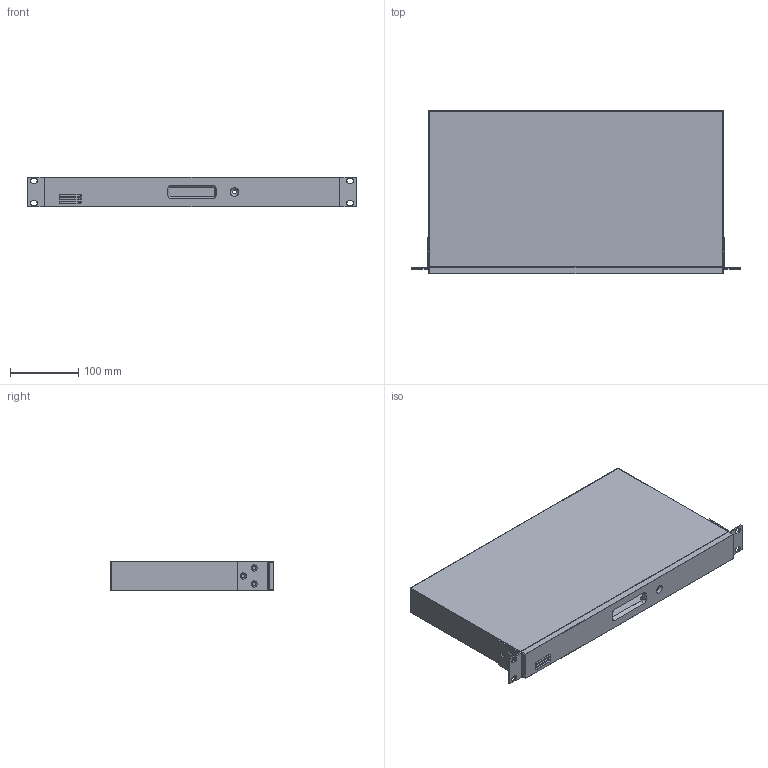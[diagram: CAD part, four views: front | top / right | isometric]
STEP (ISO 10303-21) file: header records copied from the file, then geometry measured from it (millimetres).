
FILE_DESCRIPTION(('FreeCAD Model'),'2;1');
FILE_NAME('Y:/3-AV-Parts-Sales/Produkte/nexgentec/NGTC-0808/drawings/NGTC-0808 complete.step','2020-11-05T12:46:58',('Author'),(''), 'Open CASCADE STEP processor 7.3','FreeCAD','Unknown');
FILE_SCHEMA(('AUTOMOTIVE_DESIGN { 1 0 10303 214 1 1 1 1 }'));
Length unit declared in the file: millimetre
Products named in the file (11): NGTC-0808_body; Brackets_-_1280NX_&_Prisms001; Body_RJ45_-_Dante; Body_RJ45_-_Ethernet; Body_pheonix_socket_12pin_-_Analog_Output_2; Body_pheonix_socket_12pin_-_Analog_Input_1; Body_pheonix_socket_12pin_-_Analog_Input_2; 1280NX_&_Prism_front; Brackets_-_1280NX_&_Prisms; Body_ARC_RJ45; Body_pheonix_socket_12pin_-_Analog_Output_1
Bounding box: 483 x 240.5 x 44 mm (x, y, z)
Volume: 324832.1 mm3; surface area: 549691.4 mm2
Topology: 11 solids, 11 shells, 1233 faces, 3165 edges, 2020 vertices
Faces by surface type: plane 1022, cylinder 115, cone 92, sphere 4
Full cylindrical faces by diameter (mm): 2.1 x4, 2.5 x4, 3 x1, 5 x14, 5.6 x1, 8 x1
Entity records: 78268 total; most frequent: CARTESIAN_POINT 13389, DIRECTION 12171, LINE 8925, VECTOR 8925, ORIENTED_EDGE 6322, PCURVE 6322, DEFINITIONAL_REPRESENTATION 6322, EDGE_CURVE 3161
